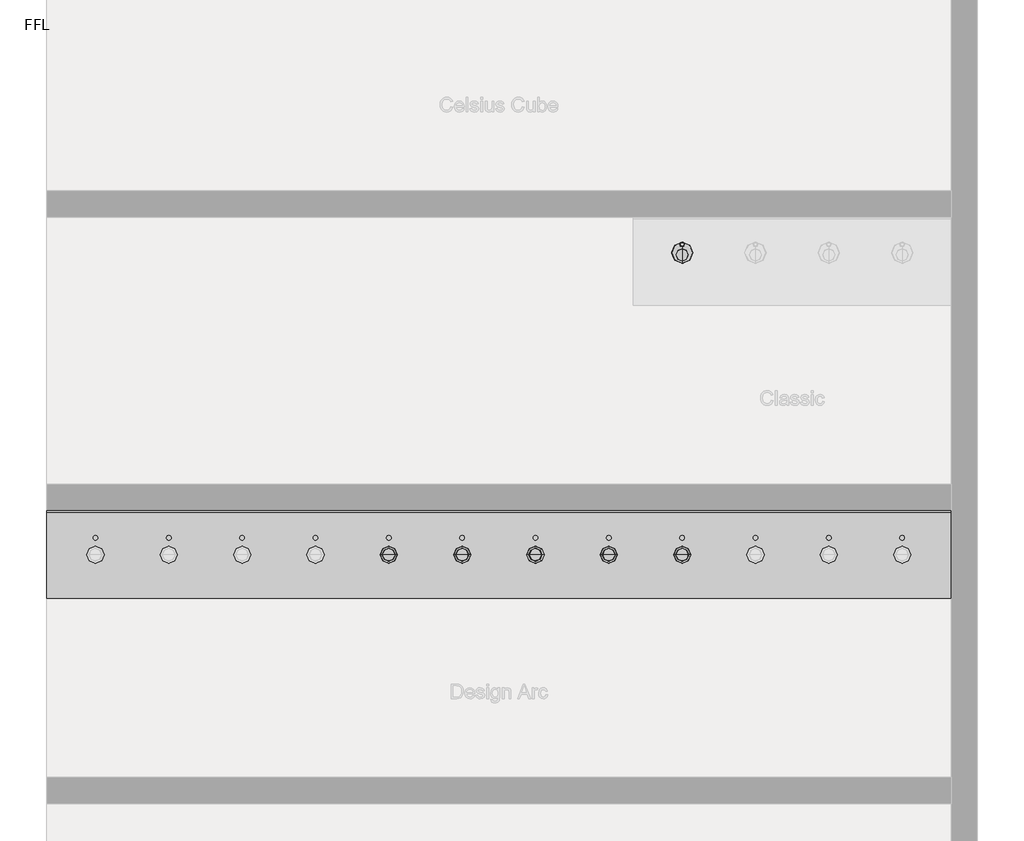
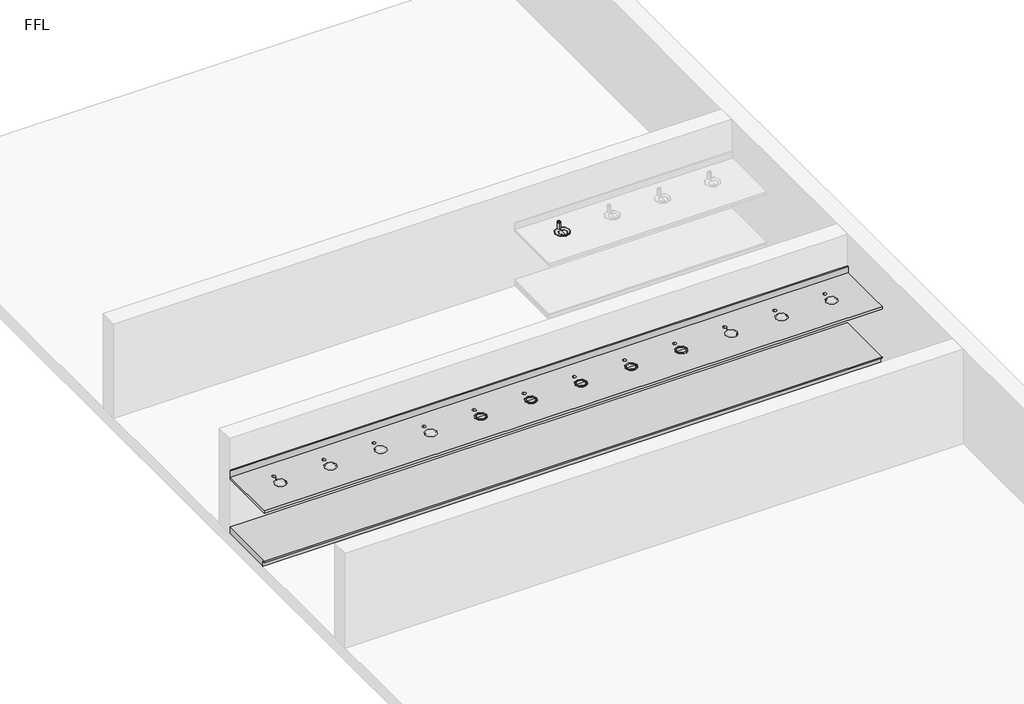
# One storey, part 3 of 6: 6 flow terminals, 2 furniture elements.
"""IFC4 building model written with IfcOpenShell, lengths in millimetres."""

from ifc_helpers import new_model, si_unit, frame, origin, place, context, project, spatial, polyline, circle_curve, transform, mapped, element, save
from ifc_brep_helpers import plane_surface, revolved_surface, advanced_brep
from components import bright_chrome_13082571, bright_chrome_743c02cf, generic_plinth_900mm_08863006

model = new_model("IFC4")

# Units and contexts
model_context = context("Model", 3, world=origin())
ifc_project = project(units=[si_unit("LENGTHUNIT", "METRE", prefix="MILLI")], contexts=[model_context])

# Site, building, storey
site = spatial("IfcSite", under=ifc_project)
building = spatial("IfcBuilding", under=site)
storey = spatial("IfcBuildingStorey", under=building, Name="FFL", Elevation=0.0)

# Flow terminals
placement = place(None, origin())
bright_chrome_shape = bright_chrome_13082571(model_context)
element("IfcFlowTerminal", 1, ObjectType="z_PlumFixt_Zip Australia_Font and Tap Riser : Bright Chrome", at=placement, inside=storey, context=model_context, shape_type="MappedRepresentation", body=[
    mapped(bright_chrome_shape, transform((-470.7352929, 7467.9893304, 900.0), x_axis=(1.0, 0.0, 0.0), y_axis=(0.0, 1.0, 0.0), z_axis=(0.0, 0.0, 1.0))),
])
bright_chrome_2_shape = bright_chrome_743c02cf(model_context)
element("IfcFlowTerminal", 2, ObjectType="z_PlumFixt_Zip Australia_Font : Brushed Rose Gold", at=placement, inside=storey, context=model_context, shape_type="MappedRepresentation", body=[
    mapped(bright_chrome_2_shape, transform((-3470.7352929, 4381.2393304, 900.0), x_axis=(1.0, 0.0, 0.0), y_axis=(0.0, 1.0, 0.0), z_axis=(0.0, 0.0, 1.0))),
])
element("IfcFlowTerminal", 3, ObjectType="z_PlumFixt_Zip Australia_Font : Gloss Black", at=placement, inside=storey, context=model_context, shape_type="MappedRepresentation", body=[
    mapped(bright_chrome_2_shape, transform((-2720.7352929, 4381.2393304, 900.0), x_axis=(1.0, 0.0, 0.0), y_axis=(0.0, 1.0, 0.0), z_axis=(0.0, 0.0, 1.0))),
])
element("IfcFlowTerminal", 4, ObjectType="z_PlumFixt_Zip Australia_Font : Gold", at=placement, inside=storey, context=model_context, shape_type="MappedRepresentation", body=[
    mapped(bright_chrome_2_shape, transform((-1970.7352929, 4381.2393304, 900.0), x_axis=(1.0, 0.0, 0.0), y_axis=(0.0, 1.0, 0.0), z_axis=(0.0, 0.0, 1.0))),
])
element("IfcFlowTerminal", 5, ObjectType="z_PlumFixt_Zip Australia_Font : Gunmetal", at=placement, inside=storey, context=model_context, shape_type="MappedRepresentation", body=[
    mapped(bright_chrome_2_shape, transform((-1220.7352929, 4381.2393304, 900.0), x_axis=(1.0, 0.0, 0.0), y_axis=(0.0, 1.0, 0.0), z_axis=(0.0, 0.0, 1.0))),
])
element("IfcFlowTerminal", 6, ObjectType="z_PlumFixt_Zip Australia_Font : Matte Black", at=placement, inside=storey, context=model_context, shape_type="MappedRepresentation", body=[
    mapped(bright_chrome_2_shape, transform((-470.7352929, 4381.2393304, 900.0), x_axis=(1.0, 0.0, 0.0), y_axis=(0.0, 1.0, 0.0), z_axis=(0.0, 0.0, 1.0))),
])

# Furniture
element("IfcFurniture", 7, ObjectType="Counter Top : 900mm Depth", at=placement, inside=storey, context=model_context, shape_type="AdvancedBrep", body=[
    advanced_brep(
    [(-6969.7352929, 3948.2393304, 900.0), (2280.2657919, 3948.2393304, 900.0), (2280.2657919, 4829.1893304, 900.0), (-6969.7352929, 4829.1893304, 900.0), (-6469.7352929, 4328.0393304, 900.0), (-6469.7352929, 4464.4393304, 900.0), (-6469.7352929, 4544.2393304, 900.0), (-6469.7352929, 4592.2393304, 900.0), (-5719.7352929, 4544.2393304, 900.0), (-5719.7352929, 4592.2393304, 900.0), (-4969.7352929, 4328.0393304, 900.0), (-4969.7352929, 4464.4393304, 900.0), (-4969.7352929, 4544.2393304, 900.0), (-4969.7352929, 4592.2393304, 900.0), (-4219.7352929, 4544.2393304, 900.0), (-4219.7352929, 4592.2393304, 900.0), (-3469.7352929, 4328.0393304, 900.0), (-3469.7352929, 4464.4393304, 900.0), (-3469.7352929, 4544.2393304, 900.0), (-3469.7352929, 4592.2393304, 900.0), (-2719.7352929, 4544.2393304, 900.0), (-2719.7352929, 4592.2393304, 900.0), (-1969.7352929, 4328.0393304, 900.0), (-1969.7352929, 4464.4393304, 900.0), (-1969.7352929, 4544.2393304, 900.0), (-1969.7352929, 4592.2393304, 900.0), (-1219.7352929, 4544.2393304, 900.0), (-1219.7352929, 4592.2393304, 900.0), (1780.2647071, 4544.2393304, 900.0), (1780.2647071, 4592.2393304, 900.0), (1030.2647071, 4328.0393304, 900.0), (1030.2647071, 4464.4393304, 900.0), (1030.2647071, 4544.2393304, 900.0), (1030.2647071, 4592.2393304, 900.0), (280.2647071, 4544.2393304, 900.0), (280.2647071, 4592.2393304, 900.0), (-469.7352929, 4328.0393304, 900.0), (-469.7352929, 4464.4393304, 900.0), (-469.7352929, 4544.2393304, 900.0), (-469.7352929, 4592.2393304, 900.0), (-5719.7352929, 4328.0393304, 900.0), (-5719.7352929, 4464.4393304, 900.0), (-4219.7352929, 4328.0393304, 900.0), (-4219.7352929, 4464.4393304, 900.0), (-2719.7352929, 4328.0393304, 900.0), (-2719.7352929, 4464.4393304, 900.0), (-1219.7352929, 4328.0393304, 900.0), (-1219.7352929, 4464.4393304, 900.0), (1780.2647071, 4328.0393304, 900.0), (1780.2647071, 4464.4393304, 900.0), (280.2647071, 4328.0393304, 900.0), (280.2647071, 4464.4393304, 900.0), (2280.2657919, 4848.2393304, 860.0), (2280.2657919, 3948.2393304, 860.0), (-6969.7352929, 3948.2393304, 860.0), (-6969.7352929, 4848.2393304, 860.0), (-6469.7352929, 4464.4393304, 860.0), (-6469.7352929, 4328.0393304, 860.0), (-6469.7352929, 4592.2393304, 860.0), (-6469.7352929, 4544.2393304, 860.0), (-5719.7352929, 4592.2393304, 860.0), (-5719.7352929, 4544.2393304, 860.0), (-4969.7352929, 4464.4393304, 860.0), (-4969.7352929, 4328.0393304, 860.0), (-4969.7352929, 4592.2393304, 860.0), (-4969.7352929, 4544.2393304, 860.0), (-4219.7352929, 4592.2393304, 860.0), (-4219.7352929, 4544.2393304, 860.0), (-3469.7352929, 4464.4393304, 860.0), (-3469.7352929, 4328.0393304, 860.0), (-3469.7352929, 4592.2393304, 860.0), (-3469.7352929, 4544.2393304, 860.0), (-2719.7352929, 4592.2393304, 860.0), (-2719.7352929, 4544.2393304, 860.0), (-1969.7352929, 4464.4393304, 860.0), (-1969.7352929, 4328.0393304, 860.0), (-1969.7352929, 4592.2393304, 860.0), (-1969.7352929, 4544.2393304, 860.0), (-1219.7352929, 4592.2393304, 860.0), (-1219.7352929, 4544.2393304, 860.0), (1780.2647071, 4592.2393304, 860.0), (1780.2647071, 4544.2393304, 860.0), (1030.2647071, 4464.4393304, 860.0), (1030.2647071, 4328.0393304, 860.0), (1030.2647071, 4592.2393304, 860.0), (1030.2647071, 4544.2393304, 860.0), (280.2647071, 4592.2393304, 860.0), (280.2647071, 4544.2393304, 860.0), (-469.7352929, 4464.4393304, 860.0), (-469.7352929, 4328.0393304, 860.0), (-469.7352929, 4592.2393304, 860.0), (-469.7352929, 4544.2393304, 860.0), (-5719.7352929, 4464.4393304, 860.0), (-5719.7352929, 4328.0393304, 860.0), (-4219.7352929, 4464.4393304, 860.0), (-4219.7352929, 4328.0393304, 860.0), (-2719.7352929, 4464.4393304, 860.0), (-2719.7352929, 4328.0393304, 860.0), (-1219.7352929, 4464.4393304, 860.0), (-1219.7352929, 4328.0393304, 860.0), (1780.2647071, 4464.4393304, 860.0), (1780.2647071, 4328.0393304, 860.0), (280.2647071, 4464.4393304, 860.0), (280.2647071, 4328.0393304, 860.0), (-6969.7352929, 4848.2393304, 1001.6), (2280.2657919, 4848.2393304, 1001.6), (-6969.7352929, 4829.1893304, 1001.6), (2280.2657919, 4829.1893304, 1001.6)],
    [
        (0, 1),
        (1, 2),
        (2, 3),
        (3, 0),
        (4, 5, circle_curve(frame((-6469.7352929, 4396.2393304, 900.0), z_axis=(0.0, 0.0, -1.0), x_axis=(0.0, -1.0, 0.0)), 68.2)),
        (5, 4, circle_curve(frame((-6469.7352929, 4396.2393304, 900.0), z_axis=(0.0, 0.0, -1.0), x_axis=(0.0, -1.0, 0.0)), 68.2)),
        (6, 7, circle_curve(frame((-6469.7352929, 4568.2393304, 900.0), z_axis=(0.0, 0.0, -1.0), x_axis=(0.0, -1.0, 0.0)), 24.0)),
        (7, 6, circle_curve(frame((-6469.7352929, 4568.2393304, 900.0), z_axis=(0.0, 0.0, -1.0), x_axis=(0.0, -1.0, 0.0)), 24.0)),
        (8, 9, circle_curve(frame((-5719.7352929, 4568.2393304, 900.0), z_axis=(0.0, 0.0, -1.0), x_axis=(0.0, -1.0, 0.0)), 24.0)),
        (9, 8, circle_curve(frame((-5719.7352929, 4568.2393304, 900.0), z_axis=(0.0, 0.0, -1.0), x_axis=(0.0, -1.0, 0.0)), 24.0)),
        (10, 11, circle_curve(frame((-4969.7352929, 4396.2393304, 900.0), z_axis=(0.0, 0.0, -1.0), x_axis=(0.0, -1.0, 0.0)), 68.2)),
        (11, 10, circle_curve(frame((-4969.7352929, 4396.2393304, 900.0), z_axis=(0.0, 0.0, -1.0), x_axis=(0.0, -1.0, 0.0)), 68.2)),
        (12, 13, circle_curve(frame((-4969.7352929, 4568.2393304, 900.0), z_axis=(0.0, 0.0, -1.0), x_axis=(0.0, -1.0, 0.0)), 24.0)),
        (13, 12, circle_curve(frame((-4969.7352929, 4568.2393304, 900.0), z_axis=(0.0, 0.0, -1.0), x_axis=(0.0, -1.0, 0.0)), 24.0)),
        (14, 15, circle_curve(frame((-4219.7352929, 4568.2393304, 900.0), z_axis=(0.0, 0.0, -1.0), x_axis=(0.0, -1.0, 0.0)), 24.0)),
        (15, 14, circle_curve(frame((-4219.7352929, 4568.2393304, 900.0), z_axis=(0.0, 0.0, -1.0), x_axis=(0.0, -1.0, 0.0)), 24.0)),
        (16, 17, circle_curve(frame((-3469.7352929, 4396.2393304, 900.0), z_axis=(0.0, 0.0, -1.0), x_axis=(0.0, -1.0, 0.0)), 68.2)),
        (17, 16, circle_curve(frame((-3469.7352929, 4396.2393304, 900.0), z_axis=(0.0, 0.0, -1.0), x_axis=(0.0, -1.0, 0.0)), 68.2)),
        (18, 19, circle_curve(frame((-3469.7352929, 4568.2393304, 900.0), z_axis=(0.0, 0.0, -1.0), x_axis=(0.0, -1.0, 0.0)), 24.0)),
        (19, 18, circle_curve(frame((-3469.7352929, 4568.2393304, 900.0), z_axis=(0.0, 0.0, -1.0), x_axis=(0.0, -1.0, 0.0)), 24.0)),
        (20, 21, circle_curve(frame((-2719.7352929, 4568.2393304, 900.0), z_axis=(0.0, 0.0, -1.0), x_axis=(0.0, -1.0, 0.0)), 24.0)),
        (21, 20, circle_curve(frame((-2719.7352929, 4568.2393304, 900.0), z_axis=(0.0, 0.0, -1.0), x_axis=(0.0, -1.0, 0.0)), 24.0)),
        (22, 23, circle_curve(frame((-1969.7352929, 4396.2393304, 900.0), z_axis=(0.0, 0.0, -1.0), x_axis=(0.0, -1.0, 0.0)), 68.2)),
        (23, 22, circle_curve(frame((-1969.7352929, 4396.2393304, 900.0), z_axis=(0.0, 0.0, -1.0), x_axis=(0.0, -1.0, 0.0)), 68.2)),
        (24, 25, circle_curve(frame((-1969.7352929, 4568.2393304, 900.0), z_axis=(0.0, 0.0, -1.0), x_axis=(0.0, -1.0, 0.0)), 24.0)),
        (25, 24, circle_curve(frame((-1969.7352929, 4568.2393304, 900.0), z_axis=(0.0, 0.0, -1.0), x_axis=(0.0, -1.0, 0.0)), 24.0)),
        (26, 27, circle_curve(frame((-1219.7352929, 4568.2393304, 900.0), z_axis=(0.0, 0.0, -1.0), x_axis=(0.0, -1.0, 0.0)), 24.0)),
        (27, 26, circle_curve(frame((-1219.7352929, 4568.2393304, 900.0), z_axis=(0.0, 0.0, -1.0), x_axis=(0.0, -1.0, 0.0)), 24.0)),
        (28, 29, circle_curve(frame((1780.2647071, 4568.2393304, 900.0), z_axis=(0.0, 0.0, -1.0), x_axis=(0.0, -1.0, 0.0)), 24.0)),
        (29, 28, circle_curve(frame((1780.2647071, 4568.2393304, 900.0), z_axis=(0.0, 0.0, -1.0), x_axis=(0.0, -1.0, 0.0)), 24.0)),
        (30, 31, circle_curve(frame((1030.2647071, 4396.2393304, 900.0), z_axis=(0.0, 0.0, -1.0), x_axis=(0.0, -1.0, 0.0)), 68.2)),
        (31, 30, circle_curve(frame((1030.2647071, 4396.2393304, 900.0), z_axis=(0.0, 0.0, -1.0), x_axis=(0.0, -1.0, 0.0)), 68.2)),
        (32, 33, circle_curve(frame((1030.2647071, 4568.2393304, 900.0), z_axis=(0.0, 0.0, -1.0), x_axis=(0.0, -1.0, 0.0)), 24.0)),
        (33, 32, circle_curve(frame((1030.2647071, 4568.2393304, 900.0), z_axis=(0.0, 0.0, -1.0), x_axis=(0.0, -1.0, 0.0)), 24.0)),
        (34, 35, circle_curve(frame((280.2647071, 4568.2393304, 900.0), z_axis=(0.0, 0.0, -1.0), x_axis=(0.0, -1.0, 0.0)), 24.0)),
        (35, 34, circle_curve(frame((280.2647071, 4568.2393304, 900.0), z_axis=(0.0, 0.0, -1.0), x_axis=(0.0, -1.0, 0.0)), 24.0)),
        (36, 37, circle_curve(frame((-469.7352929, 4396.2393304, 900.0), z_axis=(0.0, 0.0, -1.0), x_axis=(0.0, -1.0, 0.0)), 68.2)),
        (37, 36, circle_curve(frame((-469.7352929, 4396.2393304, 900.0), z_axis=(0.0, 0.0, -1.0), x_axis=(0.0, -1.0, 0.0)), 68.2)),
        (38, 39, circle_curve(frame((-469.7352929, 4568.2393304, 900.0), z_axis=(0.0, 0.0, -1.0), x_axis=(0.0, -1.0, 0.0)), 24.0)),
        (39, 38, circle_curve(frame((-469.7352929, 4568.2393304, 900.0), z_axis=(0.0, 0.0, -1.0), x_axis=(0.0, -1.0, 0.0)), 24.0)),
        (40, 41, circle_curve(frame((-5719.7352929, 4396.2393304, 900.0), z_axis=(0.0, 0.0, -1.0), x_axis=(0.0, -1.0, 0.0)), 68.2)),
        (41, 40, circle_curve(frame((-5719.7352929, 4396.2393304, 900.0), z_axis=(0.0, 0.0, -1.0), x_axis=(0.0, -1.0, 0.0)), 68.2)),
        (42, 43, circle_curve(frame((-4219.7352929, 4396.2393304, 900.0), z_axis=(0.0, 0.0, -1.0), x_axis=(0.0, -1.0, 0.0)), 68.2)),
        (43, 42, circle_curve(frame((-4219.7352929, 4396.2393304, 900.0), z_axis=(0.0, 0.0, -1.0), x_axis=(0.0, -1.0, 0.0)), 68.2)),
        (44, 45, circle_curve(frame((-2719.7352929, 4396.2393304, 900.0), z_axis=(0.0, 0.0, -1.0), x_axis=(0.0, -1.0, 0.0)), 68.2)),
        (45, 44, circle_curve(frame((-2719.7352929, 4396.2393304, 900.0), z_axis=(0.0, 0.0, -1.0), x_axis=(0.0, -1.0, 0.0)), 68.2)),
        (46, 47, circle_curve(frame((-1219.7352929, 4396.2393304, 900.0), z_axis=(0.0, 0.0, -1.0), x_axis=(0.0, -1.0, 0.0)), 68.2)),
        (47, 46, circle_curve(frame((-1219.7352929, 4396.2393304, 900.0), z_axis=(0.0, 0.0, -1.0), x_axis=(0.0, -1.0, 0.0)), 68.2)),
        (48, 49, circle_curve(frame((1780.2647071, 4396.2393304, 900.0), z_axis=(0.0, 0.0, -1.0), x_axis=(0.0, -1.0, 0.0)), 68.2)),
        (49, 48, circle_curve(frame((1780.2647071, 4396.2393304, 900.0), z_axis=(0.0, 0.0, -1.0), x_axis=(0.0, -1.0, 0.0)), 68.2)),
        (50, 51, circle_curve(frame((280.2647071, 4396.2393304, 900.0), z_axis=(0.0, 0.0, -1.0), x_axis=(0.0, -1.0, 0.0)), 68.2)),
        (51, 50, circle_curve(frame((280.2647071, 4396.2393304, 900.0), z_axis=(0.0, 0.0, -1.0), x_axis=(0.0, -1.0, 0.0)), 68.2)),
        (52, 53),
        (53, 54),
        (54, 55),
        (55, 52),
        (56, 57, circle_curve(frame((-6469.7352929, 4396.2393304, 860.0), z_axis=(0.0, 0.0, 1.0), x_axis=(0.0, -1.0, 0.0)), 68.2)),
        (57, 56, circle_curve(frame((-6469.7352929, 4396.2393304, 860.0), z_axis=(0.0, 0.0, 1.0), x_axis=(0.0, -1.0, 0.0)), 68.2)),
        (58, 59, circle_curve(frame((-6469.7352929, 4568.2393304, 860.0), z_axis=(0.0, 0.0, 1.0), x_axis=(0.0, -1.0, 0.0)), 24.0)),
        (59, 58, circle_curve(frame((-6469.7352929, 4568.2393304, 860.0), z_axis=(0.0, 0.0, 1.0), x_axis=(0.0, -1.0, 0.0)), 24.0)),
        (60, 61, circle_curve(frame((-5719.7352929, 4568.2393304, 860.0), z_axis=(0.0, 0.0, 1.0), x_axis=(0.0, -1.0, 0.0)), 24.0)),
        (61, 60, circle_curve(frame((-5719.7352929, 4568.2393304, 860.0), z_axis=(0.0, 0.0, 1.0), x_axis=(0.0, -1.0, 0.0)), 24.0)),
        (62, 63, circle_curve(frame((-4969.7352929, 4396.2393304, 860.0), z_axis=(0.0, 0.0, 1.0), x_axis=(0.0, -1.0, 0.0)), 68.2)),
        (63, 62, circle_curve(frame((-4969.7352929, 4396.2393304, 860.0), z_axis=(0.0, 0.0, 1.0), x_axis=(0.0, -1.0, 0.0)), 68.2)),
        (64, 65, circle_curve(frame((-4969.7352929, 4568.2393304, 860.0), z_axis=(0.0, 0.0, 1.0), x_axis=(0.0, -1.0, 0.0)), 24.0)),
        (65, 64, circle_curve(frame((-4969.7352929, 4568.2393304, 860.0), z_axis=(0.0, 0.0, 1.0), x_axis=(0.0, -1.0, 0.0)), 24.0)),
        (66, 67, circle_curve(frame((-4219.7352929, 4568.2393304, 860.0), z_axis=(0.0, 0.0, 1.0), x_axis=(0.0, -1.0, 0.0)), 24.0)),
        (67, 66, circle_curve(frame((-4219.7352929, 4568.2393304, 860.0), z_axis=(0.0, 0.0, 1.0), x_axis=(0.0, -1.0, 0.0)), 24.0)),
        (68, 69, circle_curve(frame((-3469.7352929, 4396.2393304, 860.0), z_axis=(0.0, 0.0, 1.0), x_axis=(0.0, -1.0, 0.0)), 68.2)),
        (69, 68, circle_curve(frame((-3469.7352929, 4396.2393304, 860.0), z_axis=(0.0, 0.0, 1.0), x_axis=(0.0, -1.0, 0.0)), 68.2)),
        (70, 71, circle_curve(frame((-3469.7352929, 4568.2393304, 860.0), z_axis=(0.0, 0.0, 1.0), x_axis=(0.0, -1.0, 0.0)), 24.0)),
        (71, 70, circle_curve(frame((-3469.7352929, 4568.2393304, 860.0), z_axis=(0.0, 0.0, 1.0), x_axis=(0.0, -1.0, 0.0)), 24.0)),
        (72, 73, circle_curve(frame((-2719.7352929, 4568.2393304, 860.0), z_axis=(0.0, 0.0, 1.0), x_axis=(0.0, -1.0, 0.0)), 24.0)),
        (73, 72, circle_curve(frame((-2719.7352929, 4568.2393304, 860.0), z_axis=(0.0, 0.0, 1.0), x_axis=(0.0, -1.0, 0.0)), 24.0)),
        (74, 75, circle_curve(frame((-1969.7352929, 4396.2393304, 860.0), z_axis=(0.0, 0.0, 1.0), x_axis=(0.0, -1.0, 0.0)), 68.2)),
        (75, 74, circle_curve(frame((-1969.7352929, 4396.2393304, 860.0), z_axis=(0.0, 0.0, 1.0), x_axis=(0.0, -1.0, 0.0)), 68.2)),
        (76, 77, circle_curve(frame((-1969.7352929, 4568.2393304, 860.0), z_axis=(0.0, 0.0, 1.0), x_axis=(0.0, -1.0, 0.0)), 24.0)),
        (77, 76, circle_curve(frame((-1969.7352929, 4568.2393304, 860.0), z_axis=(0.0, 0.0, 1.0), x_axis=(0.0, -1.0, 0.0)), 24.0)),
        (78, 79, circle_curve(frame((-1219.7352929, 4568.2393304, 860.0), z_axis=(0.0, 0.0, 1.0), x_axis=(0.0, -1.0, 0.0)), 24.0)),
        (79, 78, circle_curve(frame((-1219.7352929, 4568.2393304, 860.0), z_axis=(0.0, 0.0, 1.0), x_axis=(0.0, -1.0, 0.0)), 24.0)),
        (80, 81, circle_curve(frame((1780.2647071, 4568.2393304, 860.0), z_axis=(0.0, 0.0, 1.0), x_axis=(0.0, -1.0, 0.0)), 24.0)),
        (81, 80, circle_curve(frame((1780.2647071, 4568.2393304, 860.0), z_axis=(0.0, 0.0, 1.0), x_axis=(0.0, -1.0, 0.0)), 24.0)),
        (82, 83, circle_curve(frame((1030.2647071, 4396.2393304, 860.0), z_axis=(0.0, 0.0, 1.0), x_axis=(0.0, -1.0, 0.0)), 68.2)),
        (83, 82, circle_curve(frame((1030.2647071, 4396.2393304, 860.0), z_axis=(0.0, 0.0, 1.0), x_axis=(0.0, -1.0, 0.0)), 68.2)),
        (84, 85, circle_curve(frame((1030.2647071, 4568.2393304, 860.0), z_axis=(0.0, 0.0, 1.0), x_axis=(0.0, -1.0, 0.0)), 24.0)),
        (85, 84, circle_curve(frame((1030.2647071, 4568.2393304, 860.0), z_axis=(0.0, 0.0, 1.0), x_axis=(0.0, -1.0, 0.0)), 24.0)),
        (86, 87, circle_curve(frame((280.2647071, 4568.2393304, 860.0), z_axis=(0.0, 0.0, 1.0), x_axis=(0.0, -1.0, 0.0)), 24.0)),
        (87, 86, circle_curve(frame((280.2647071, 4568.2393304, 860.0), z_axis=(0.0, 0.0, 1.0), x_axis=(0.0, -1.0, 0.0)), 24.0)),
        (88, 89, circle_curve(frame((-469.7352929, 4396.2393304, 860.0), z_axis=(0.0, 0.0, 1.0), x_axis=(0.0, -1.0, 0.0)), 68.2)),
        (89, 88, circle_curve(frame((-469.7352929, 4396.2393304, 860.0), z_axis=(0.0, 0.0, 1.0), x_axis=(0.0, -1.0, 0.0)), 68.2)),
        (90, 91, circle_curve(frame((-469.7352929, 4568.2393304, 860.0), z_axis=(0.0, 0.0, 1.0), x_axis=(0.0, -1.0, 0.0)), 24.0)),
        (91, 90, circle_curve(frame((-469.7352929, 4568.2393304, 860.0), z_axis=(0.0, 0.0, 1.0), x_axis=(0.0, -1.0, 0.0)), 24.0)),
        (92, 93, circle_curve(frame((-5719.7352929, 4396.2393304, 860.0), z_axis=(0.0, 0.0, 1.0), x_axis=(0.0, -1.0, 0.0)), 68.2)),
        (93, 92, circle_curve(frame((-5719.7352929, 4396.2393304, 860.0), z_axis=(0.0, 0.0, 1.0), x_axis=(0.0, -1.0, 0.0)), 68.2)),
        (94, 95, circle_curve(frame((-4219.7352929, 4396.2393304, 860.0), z_axis=(0.0, 0.0, 1.0), x_axis=(0.0, -1.0, 0.0)), 68.2)),
        (95, 94, circle_curve(frame((-4219.7352929, 4396.2393304, 860.0), z_axis=(0.0, 0.0, 1.0), x_axis=(0.0, -1.0, 0.0)), 68.2)),
        (96, 97, circle_curve(frame((-2719.7352929, 4396.2393304, 860.0), z_axis=(0.0, 0.0, 1.0), x_axis=(0.0, -1.0, 0.0)), 68.2)),
        (97, 96, circle_curve(frame((-2719.7352929, 4396.2393304, 860.0), z_axis=(0.0, 0.0, 1.0), x_axis=(0.0, -1.0, 0.0)), 68.2)),
        (98, 99, circle_curve(frame((-1219.7352929, 4396.2393304, 860.0), z_axis=(0.0, 0.0, 1.0), x_axis=(0.0, -1.0, 0.0)), 68.2)),
        (99, 98, circle_curve(frame((-1219.7352929, 4396.2393304, 860.0), z_axis=(0.0, 0.0, 1.0), x_axis=(0.0, -1.0, 0.0)), 68.2)),
        (100, 101, circle_curve(frame((1780.2647071, 4396.2393304, 860.0), z_axis=(0.0, 0.0, 1.0), x_axis=(0.0, -1.0, 0.0)), 68.2)),
        (101, 100, circle_curve(frame((1780.2647071, 4396.2393304, 860.0), z_axis=(0.0, 0.0, 1.0), x_axis=(0.0, -1.0, 0.0)), 68.2)),
        (102, 103, circle_curve(frame((280.2647071, 4396.2393304, 860.0), z_axis=(0.0, 0.0, 1.0), x_axis=(0.0, -1.0, 0.0)), 68.2)),
        (103, 102, circle_curve(frame((280.2647071, 4396.2393304, 860.0), z_axis=(0.0, 0.0, 1.0), x_axis=(0.0, -1.0, 0.0)), 68.2)),
        (55, 104),
        (104, 105),
        (105, 52),
        (3, 106),
        (106, 104),
        (54, 0),
        (53, 1),
        (105, 107),
        (107, 2),
        (106, 107),
        (56, 5),
        (4, 57),
        (58, 7),
        (6, 59),
        (92, 41),
        (40, 93),
        (60, 9),
        (8, 61),
        (62, 11),
        (10, 63),
        (64, 13),
        (12, 65),
        (94, 43),
        (42, 95),
        (66, 15),
        (14, 67),
        (68, 17),
        (16, 69),
        (70, 19),
        (18, 71),
        (96, 45),
        (44, 97),
        (72, 21),
        (20, 73),
        (74, 23),
        (22, 75),
        (76, 25),
        (24, 77),
        (98, 47),
        (46, 99),
        (78, 27),
        (26, 79),
        (100, 49),
        (48, 101),
        (80, 29),
        (28, 81),
        (82, 31),
        (30, 83),
        (84, 33),
        (32, 85),
        (102, 51),
        (50, 103),
        (86, 35),
        (34, 87),
        (88, 37),
        (36, 89),
        (90, 39),
        (38, 91),
    ],
    [
        plane_surface(frame((-6969.7352929, 4848.2393304, 900.0), z_axis=(0.0, 0.0, 1.0), x_axis=(-1.0, 0.0, 0.0))),
        plane_surface(frame((-6969.7352929, 4848.2393304, 860.0), z_axis=(0.0, 0.0, -1.0), x_axis=(1.0, 0.0, 0.0))),
        plane_surface(frame((2280.2657919, 4848.2393304, 900.0), z_axis=(0.0, 1.0, 0.0), x_axis=(0.0, 0.0, -1.0))),
        plane_surface(frame((-6969.7352929, 4848.2393304, 900.0), z_axis=(-1.0, 0.0, 0.0), x_axis=(0.0, 0.0, -1.0))),
        plane_surface(frame((-6969.7352929, 3948.2393304, 900.0), z_axis=(0.0, -1.0, 0.0), x_axis=(0.0, 0.0, -1.0))),
        plane_surface(frame((2280.2657919, 3948.2393304, 900.0), z_axis=(1.0, 0.0, 0.0), x_axis=(0.0, 0.0, -1.0))),
        plane_surface(frame((-6969.7352929, 4848.2393304, 1001.6), z_axis=(0.0, 0.0, 1.0), x_axis=(0.0, -1.0, 0.0))),
        plane_surface(frame((-6969.7352929, 4829.1893304, 1001.6), z_axis=(0.0, -1.0, 0.0), x_axis=(0.0, 0.0, -1.0))),
        revolved_surface(polyline([(-6469.7352929, 4328.0393304, 900.0), (-6469.7352929, 4328.0393304, 860.0)]), (-6469.7352929, 4396.2393304, 700.0), (0.0, 0.0, 1.0)),
        revolved_surface(polyline([(-6469.7352929, 4544.2393304, 900.0), (-6469.7352929, 4544.2393304, 860.0)]), (-6469.7352929, 4568.2393304, 700.0), (0.0, 0.0, 1.0)),
        revolved_surface(polyline([(-5719.7352929, 4328.0393304, 900.0), (-5719.7352929, 4328.0393304, 860.0)]), (-5719.7352929, 4396.2393304, 700.0), (0.0, 0.0, 1.0)),
        revolved_surface(polyline([(-5719.7352929, 4544.2393304, 900.0), (-5719.7352929, 4544.2393304, 860.0)]), (-5719.7352929, 4568.2393304, 700.0), (0.0, 0.0, 1.0)),
        revolved_surface(polyline([(-4969.7352929, 4328.0393304, 900.0), (-4969.7352929, 4328.0393304, 860.0)]), (-4969.7352929, 4396.2393304, 700.0), (0.0, 0.0, 1.0)),
        revolved_surface(polyline([(-4969.7352929, 4544.2393304, 900.0), (-4969.7352929, 4544.2393304, 860.0)]), (-4969.7352929, 4568.2393304, 700.0), (0.0, 0.0, 1.0)),
        revolved_surface(polyline([(-4219.7352929, 4328.0393304, 900.0), (-4219.7352929, 4328.0393304, 860.0)]), (-4219.7352929, 4396.2393304, 700.0), (0.0, 0.0, 1.0)),
        revolved_surface(polyline([(-4219.7352929, 4544.2393304, 900.0), (-4219.7352929, 4544.2393304, 860.0)]), (-4219.7352929, 4568.2393304, 700.0), (0.0, 0.0, 1.0)),
        revolved_surface(polyline([(-3469.7352929, 4328.0393304, 900.0), (-3469.7352929, 4328.0393304, 860.0)]), (-3469.7352929, 4396.2393304, 700.0), (0.0, 0.0, 1.0)),
        revolved_surface(polyline([(-3469.7352929, 4544.2393304, 900.0), (-3469.7352929, 4544.2393304, 860.0)]), (-3469.7352929, 4568.2393304, 700.0), (0.0, 0.0, 1.0)),
        revolved_surface(polyline([(-2719.7352929, 4328.0393304, 900.0), (-2719.7352929, 4328.0393304, 860.0)]), (-2719.7352929, 4396.2393304, 700.0), (0.0, 0.0, 1.0)),
        revolved_surface(polyline([(-2719.7352929, 4544.2393304, 900.0), (-2719.7352929, 4544.2393304, 860.0)]), (-2719.7352929, 4568.2393304, 700.0), (0.0, 0.0, 1.0)),
        revolved_surface(polyline([(-1969.7352929, 4328.0393304, 900.0), (-1969.7352929, 4328.0393304, 860.0)]), (-1969.7352929, 4396.2393304, 700.0), (0.0, 0.0, 1.0)),
        revolved_surface(polyline([(-1969.7352929, 4544.2393304, 900.0), (-1969.7352929, 4544.2393304, 860.0)]), (-1969.7352929, 4568.2393304, 700.0), (0.0, 0.0, 1.0)),
        revolved_surface(polyline([(-1219.7352929, 4328.0393304, 900.0), (-1219.7352929, 4328.0393304, 860.0)]), (-1219.7352929, 4396.2393304, 700.0), (0.0, 0.0, 1.0)),
        revolved_surface(polyline([(-1219.7352929, 4544.2393304, 900.0), (-1219.7352929, 4544.2393304, 860.0)]), (-1219.7352929, 4568.2393304, 700.0), (0.0, 0.0, 1.0)),
        revolved_surface(polyline([(1780.2647071, 4328.0393304, 900.0), (1780.2647071, 4328.0393304, 860.0)]), (1780.2647071, 4396.2393304, 700.0), (0.0, 0.0, 1.0)),
        revolved_surface(polyline([(1780.2647071, 4544.2393304, 900.0), (1780.2647071, 4544.2393304, 860.0)]), (1780.2647071, 4568.2393304, 700.0), (0.0, 0.0, 1.0)),
        revolved_surface(polyline([(1030.2647071, 4328.0393304, 900.0), (1030.2647071, 4328.0393304, 860.0)]), (1030.2647071, 4396.2393304, 700.0), (0.0, 0.0, 1.0)),
        revolved_surface(polyline([(1030.2647071, 4544.2393304, 900.0), (1030.2647071, 4544.2393304, 860.0)]), (1030.2647071, 4568.2393304, 700.0), (0.0, 0.0, 1.0)),
        revolved_surface(polyline([(280.2647071, 4328.0393304, 900.0), (280.2647071, 4328.0393304, 860.0)]), (280.2647071, 4396.2393304, 700.0), (0.0, 0.0, 1.0)),
        revolved_surface(polyline([(280.2647071, 4544.2393304, 900.0), (280.2647071, 4544.2393304, 860.0)]), (280.2647071, 4568.2393304, 700.0), (0.0, 0.0, 1.0)),
        revolved_surface(polyline([(-469.7352929, 4328.0393304, 900.0), (-469.7352929, 4328.0393304, 860.0)]), (-469.7352929, 4396.2393304, 700.0), (0.0, 0.0, 1.0)),
        revolved_surface(polyline([(-469.7352929, 4544.2393304, 900.0), (-469.7352929, 4544.2393304, 860.0)]), (-469.7352929, 4568.2393304, 700.0), (0.0, 0.0, 1.0)),
    ],
    [
        (0, [[1, 2, 3, 4], [5, 6], [7, 8], [9, 10], [11, 12], [13, 14], [15, 16], [17, 18], [19, 20], [21, 22], [23, 24], [25, 26], [27, 28], [29, 30], [31, 32], [33, 34], [35, 36], [37, 38], [39, 40], [41, 42], [43, 44], [45, 46], [47, 48], [49, 50], [51, 52]]),
        (1, [[53, 54, 55, 56], [57, 58], [59, 60], [61, 62], [63, 64], [65, 66], [67, 68], [69, 70], [71, 72], [73, 74], [75, 76], [77, 78], [79, 80], [81, 82], [83, 84], [85, 86], [87, 88], [89, 90], [91, 92], [93, 94], [95, 96], [97, 98], [99, 100], [101, 102], [103, 104]]),
        (2, [[-56, 105, 106, 107]]),
        (3, [[-4, 108, 109, -105, -55, 110]]),
        (4, [[-1, -110, -54, 111]]),
        (5, [[-2, -111, -53, -107, 112, 113]]),
        (6, [[-106, -109, 114, -112]]),
        (7, [[-3, -113, -114, -108]]),
        (8, [[115, -5, 116, -57]]),
        (8, [[-115, -58, -116, -6]]),
        (9, [[117, -7, 118, -59]]),
        (9, [[-117, -60, -118, -8]]),
        (10, [[119, -41, 120, -93]]),
        (10, [[-119, -94, -120, -42]]),
        (11, [[121, -9, 122, -61]]),
        (11, [[-121, -62, -122, -10]]),
        (12, [[123, -11, 124, -63]]),
        (12, [[-123, -64, -124, -12]]),
        (13, [[125, -13, 126, -65]]),
        (13, [[-125, -66, -126, -14]]),
        (14, [[127, -43, 128, -95]]),
        (14, [[-127, -96, -128, -44]]),
        (15, [[129, -15, 130, -67]]),
        (15, [[-129, -68, -130, -16]]),
        (16, [[131, -17, 132, -69]]),
        (16, [[-131, -70, -132, -18]]),
        (17, [[133, -19, 134, -71]]),
        (17, [[-133, -72, -134, -20]]),
        (18, [[135, -45, 136, -97]]),
        (18, [[-135, -98, -136, -46]]),
        (19, [[137, -21, 138, -73]]),
        (19, [[-137, -74, -138, -22]]),
        (20, [[139, -23, 140, -75]]),
        (20, [[-139, -76, -140, -24]]),
        (21, [[141, -25, 142, -77]]),
        (21, [[-141, -78, -142, -26]]),
        (22, [[143, -47, 144, -99]]),
        (22, [[-143, -100, -144, -48]]),
        (23, [[145, -27, 146, -79]]),
        (23, [[-145, -80, -146, -28]]),
        (24, [[147, -49, 148, -101]]),
        (24, [[-147, -102, -148, -50]]),
        (25, [[149, -29, 150, -81]]),
        (25, [[-149, -82, -150, -30]]),
        (26, [[151, -31, 152, -83]]),
        (26, [[-151, -84, -152, -32]]),
        (27, [[153, -33, 154, -85]]),
        (27, [[-153, -86, -154, -34]]),
        (28, [[155, -51, 156, -103]]),
        (28, [[-155, -104, -156, -52]]),
        (29, [[157, -35, 158, -87]]),
        (29, [[-157, -88, -158, -36]]),
        (30, [[159, -37, 160, -89]]),
        (30, [[-159, -90, -160, -38]]),
        (31, [[161, -39, 162, -91]]),
        (31, [[-161, -92, -162, -40]]),
    ],
),
])
generic_plinth_900mm_shape = generic_plinth_900mm_08863006(model_context)
element("IfcFurniture", 8, ObjectType="Generic Plinth : 900mm", at=placement, inside=storey, context=model_context, shape_type="MappedRepresentation", body=[
    mapped(generic_plinth_900mm_shape, transform((-2363.4724554, 4848.2393304, 0.0), x_axis=(1.0, 0.0, 0.0), y_axis=(0.0, 1.0, 0.0), z_axis=(0.0, 0.0, 1.0))),
])

save(model, "model.ifc")
